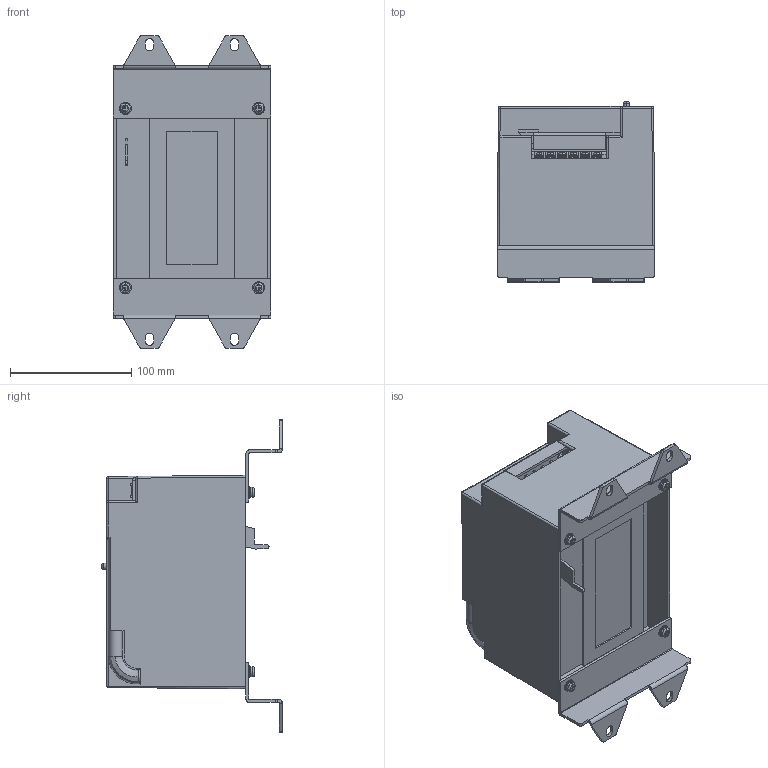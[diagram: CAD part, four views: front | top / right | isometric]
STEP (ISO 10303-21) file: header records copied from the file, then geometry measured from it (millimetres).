
FILE_DESCRIPTION (( 'STEP AP203' ), '1' );
FILE_NAME ('TGM3E-800 萇紱3D芞.STEP', '2026-06-12T04:32:16', ( 'Windows 蚚誧' ), ( 'Microsoft' ), 'SwSTEP 2.0', 'SolidWorks 2022', '' );
FILE_SCHEMA (( 'CONFIG_CONTROL_DESIGN' ));
Length unit declared in the file: millimetre
Products named in the file (3): TGM3E-800 萇紱3D芞; LCD2-400 630 STM6 萇紱芵隴滅誘欶; LCD2-800H M1 萇紱
Assembly tree (2 placements, depth 2):
  TGM3E-800 萇紱3D芞
    LCD2-800H M1 萇紱
    LCD2-400 630 STM6 萇紱芵隴滅誘欶
Bounding box: 130 x 149 x 258 mm (x, y, z)
Volume: 2061348.6 mm3; surface area: 205068.1 mm2
Topology: 11 solids, 11 shells, 669 faces, 1719 edges, 1113 vertices
Faces by surface type: plane 451, cylinder 172, bspline 37, cone 9
Entity records: 21848 total; most frequent: CARTESIAN_POINT 5515, ORIENTED_EDGE 3422, DIRECTION 3183, EDGE_CURVE 1711, LINE 1153, VECTOR 1153, VERTEX_POINT 1113, AXIS2_PLACEMENT_3D 1015
